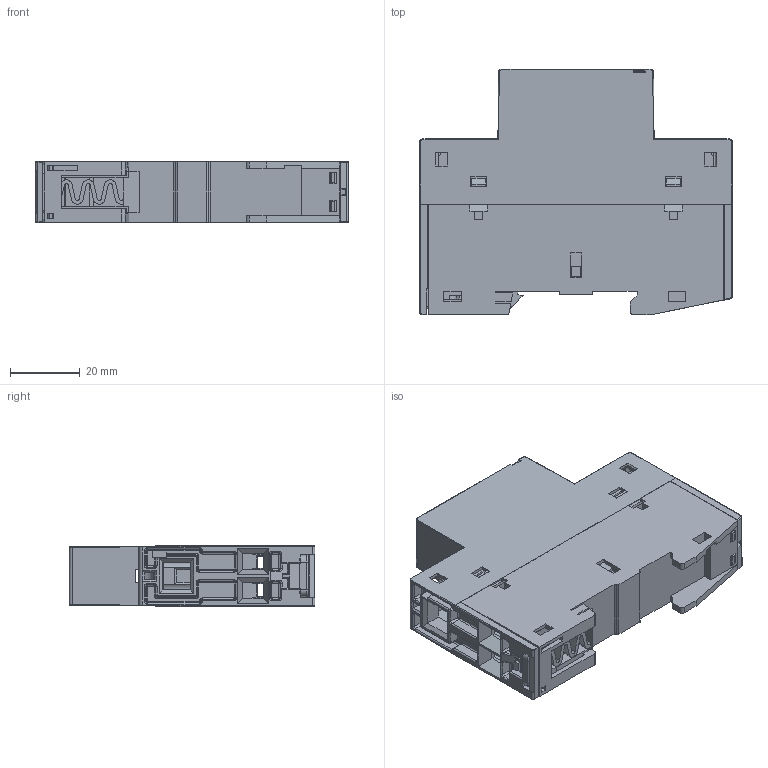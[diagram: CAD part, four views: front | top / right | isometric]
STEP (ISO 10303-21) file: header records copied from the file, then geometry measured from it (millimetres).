
FILE_DESCRIPTION (( 'STEP AP214' ), '1' );
FILE_NAME ('RSI_20.step', '2011-08-12T08:50:02', ( 'Radek Veselý' ), ( 'Siemens and Partners' ), 'SwSTEP 2.0', 'SolidWorks 2006303', '' );
FILE_SCHEMA (( 'AUTOMOTIVE_DESIGN' ));
Length unit declared in the file: millimetre
Products named in the file (1): RSI_20
Bounding box: 90 x 70.7 x 17.5 mm (x, y, z)
Volume: 26096.9 mm3; surface area: 46428.4 mm2
Topology: 11 solids, 11 shells, 2183 faces, 6071 edges, 3875 vertices
Faces by surface type: plane 1473, cylinder 267, torus 185, cone 146, bspline 108, sphere 4
Entity records: 98307 total; most frequent: CARTESIAN_POINT 19119, ORIENTED_EDGE 12112, DIRECTION 10552, EDGE_CURVE 6056, VECTOR 4492, LINE 4492, VERTEX_POINT 3875, AXIS2_PLACEMENT_3D 3030
